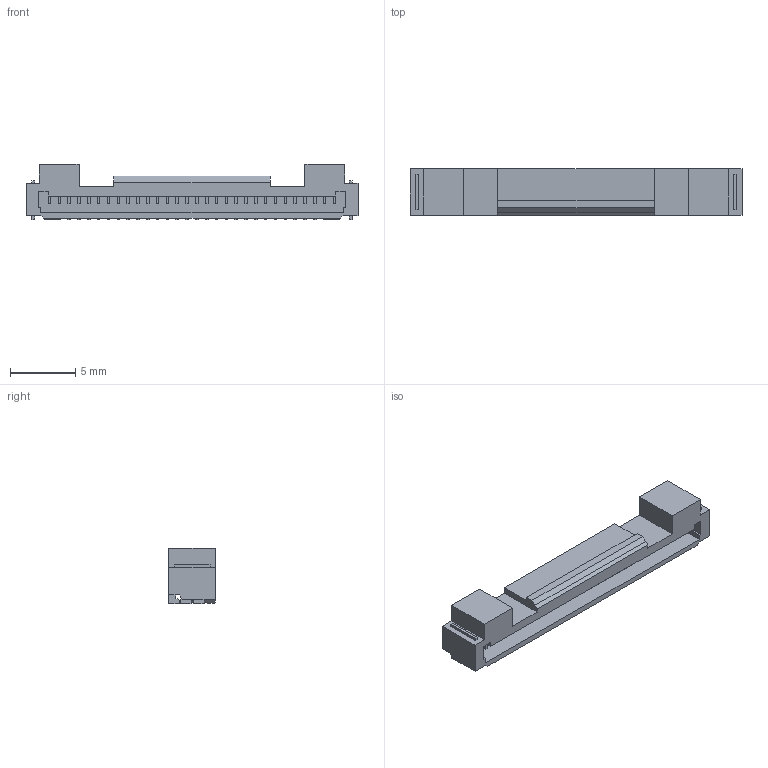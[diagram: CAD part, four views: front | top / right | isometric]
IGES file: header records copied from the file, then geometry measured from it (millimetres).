
Start section: Elysium IGES Interface
Global section: file name: 155HE:\登録\KONEGI\63期\第一技術部\新テーマ(開発アイテム)\FJC-L(30極)\③3Dデータ\量産金型\客先送付用\20240415_FJCシリーズWEBアップロード用\P3E780_FJC11-30L.igs; native system: Creo Elements/Direct Modeling 20.6  25-Mar-2023; preprocessor: Creo Element/Direct IGES_3D V2.2; author: Unknown; organization: Unknown; date: 20240416.154817; units: millimetre
Bounding box: 25.35 x 3.55 x 4.2 mm (x, y, z)
Volume: 208.3 mm3; surface area: 576.5 mm2
Topology: 1 solids, 1 shells, 439 faces, 1300 edges, 866 vertices
Faces by surface type: bspline 439
